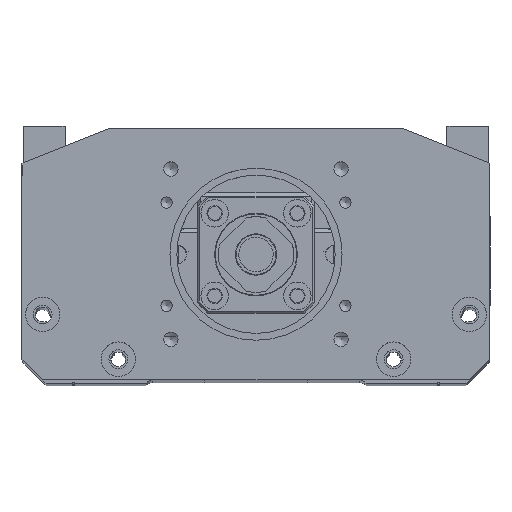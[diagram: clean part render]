
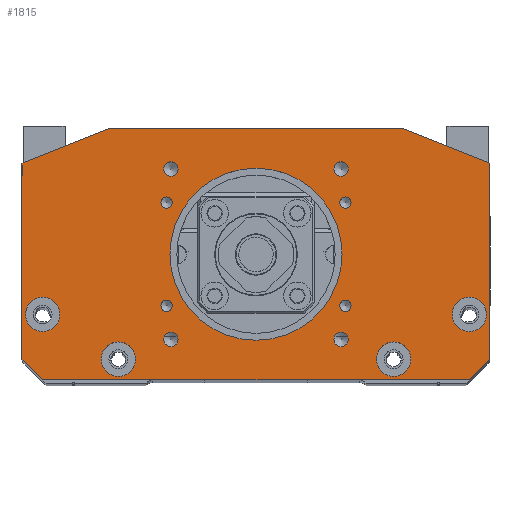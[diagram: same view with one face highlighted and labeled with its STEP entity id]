
A CAD part, top view. The second image highlights one B-rep face of the part: STEP entity #1815.
In plain terms, the highlighted planar face has unit normal (0, 0, 1).
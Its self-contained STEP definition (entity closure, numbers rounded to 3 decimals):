
#438=FACE_BOUND('',#3566,.T.);
#439=FACE_BOUND('',#3567,.T.);
#440=FACE_BOUND('',#3568,.T.);
#441=FACE_BOUND('',#3569,.T.);
#442=FACE_BOUND('',#3570,.T.);
#443=FACE_BOUND('',#3571,.T.);
#444=FACE_BOUND('',#3572,.T.);
#445=FACE_BOUND('',#3573,.T.);
#446=FACE_BOUND('',#3574,.T.);
#447=FACE_BOUND('',#3575,.T.);
#448=FACE_BOUND('',#3576,.T.);
#449=FACE_BOUND('',#3577,.T.);
#450=FACE_BOUND('',#3578,.T.);
#451=FACE_BOUND('',#3579,.T.);
#1104=PLANE('',#14274);
#1815=ADVANCED_FACE('9',(#438,#439,#440,#441,#442,#443,#444,#445,#446,#447,
#448,#449,#450,#451),#1104,.T.);
#3566=EDGE_LOOP('',(#6749));
#3567=EDGE_LOOP('',(#6750));
#3568=EDGE_LOOP('',(#6751));
#3569=EDGE_LOOP('',(#6752));
#3570=EDGE_LOOP('',(#6753));
#3571=EDGE_LOOP('',(#6754));
#3572=EDGE_LOOP('',(#6755));
#3573=EDGE_LOOP('',(#6756));
#3574=EDGE_LOOP('',(#6757));
#3575=EDGE_LOOP('',(#6758));
#3576=EDGE_LOOP('',(#6759));
#3577=EDGE_LOOP('',(#6760));
#3578=EDGE_LOOP('',(#6761));
#3579=EDGE_LOOP('',(#6762,#6763,#6764,#6765,#6766,#6767,#6768,#6769));
#4565=CIRCLE('',#14261,1.65);
#4566=CIRCLE('',#14262,1.65);
#4567=CIRCLE('',#14263,1.65);
#4568=CIRCLE('',#14264,1.65);
#4569=CIRCLE('',#14265,2.1);
#4570=CIRCLE('',#14266,2.1);
#4571=CIRCLE('',#14267,2.1);
#4572=CIRCLE('',#14268,2.1);
#4573=CIRCLE('',#14269,25.);
#4574=CIRCLE('',#14270,5.);
#4575=CIRCLE('',#14271,5.);
#4576=CIRCLE('',#14272,5.);
#4577=CIRCLE('',#14273,5.);
#6749=ORIENTED_EDGE('',*,*,#10934,.F.);
#6750=ORIENTED_EDGE('',*,*,#10935,.F.);
#6751=ORIENTED_EDGE('',*,*,#10936,.F.);
#6752=ORIENTED_EDGE('',*,*,#10937,.F.);
#6753=ORIENTED_EDGE('',*,*,#10938,.F.);
#6754=ORIENTED_EDGE('',*,*,#10939,.F.);
#6755=ORIENTED_EDGE('',*,*,#10940,.F.);
#6756=ORIENTED_EDGE('',*,*,#10941,.F.);
#6757=ORIENTED_EDGE('',*,*,#10942,.F.);
#6758=ORIENTED_EDGE('',*,*,#10943,.F.);
#6759=ORIENTED_EDGE('',*,*,#10944,.F.);
#6760=ORIENTED_EDGE('',*,*,#10945,.F.);
#6761=ORIENTED_EDGE('',*,*,#10946,.F.);
#6762=ORIENTED_EDGE('',*,*,#10025,.F.);
#6763=ORIENTED_EDGE('',*,*,#10904,.T.);
#6764=ORIENTED_EDGE('',*,*,#10947,.F.);
#6765=ORIENTED_EDGE('',*,*,#10907,.T.);
#6766=ORIENTED_EDGE('',*,*,#9930,.F.);
#6767=ORIENTED_EDGE('',*,*,#9983,.T.);
#6768=ORIENTED_EDGE('',*,*,#9999,.F.);
#6769=ORIENTED_EDGE('',*,*,#10014,.T.);
#8607=VERTEX_POINT('',#19435);
#8608=VERTEX_POINT('',#19437);
#8648=VERTEX_POINT('',#19538);
#8660=VERTEX_POINT('',#19569);
#8670=VERTEX_POINT('',#19597);
#8679=VERTEX_POINT('',#19619);
#9259=VERTEX_POINT('',#23567);
#9261=VERTEX_POINT('',#23573);
#9279=VERTEX_POINT('',#23630);
#9280=VERTEX_POINT('',#23632);
#9281=VERTEX_POINT('',#23634);
#9282=VERTEX_POINT('',#23636);
#9283=VERTEX_POINT('',#23638);
#9284=VERTEX_POINT('',#23640);
#9285=VERTEX_POINT('',#23642);
#9286=VERTEX_POINT('',#23644);
#9287=VERTEX_POINT('',#23646);
#9288=VERTEX_POINT('',#23648);
#9289=VERTEX_POINT('',#23650);
#9290=VERTEX_POINT('',#23652);
#9291=VERTEX_POINT('',#23654);
#9930=EDGE_CURVE('',#8607,#8608,#11640,.T.);
#9983=EDGE_CURVE('',#8607,#8648,#11683,.T.);
#9999=EDGE_CURVE('',#8660,#8648,#11697,.T.);
#10014=EDGE_CURVE('',#8660,#8670,#11710,.T.);
#10025=EDGE_CURVE('',#8679,#8670,#11719,.T.);
#10904=EDGE_CURVE('',#8679,#9259,#12178,.T.);
#10907=EDGE_CURVE('',#9261,#8608,#12181,.T.);
#10934=EDGE_CURVE('',#9279,#9279,#4565,.T.);
#10935=EDGE_CURVE('',#9280,#9280,#4566,.T.);
#10936=EDGE_CURVE('',#9281,#9281,#4567,.T.);
#10937=EDGE_CURVE('',#9282,#9282,#4568,.T.);
#10938=EDGE_CURVE('',#9283,#9283,#4569,.T.);
#10939=EDGE_CURVE('',#9284,#9284,#4570,.T.);
#10940=EDGE_CURVE('',#9285,#9285,#4571,.T.);
#10941=EDGE_CURVE('',#9286,#9286,#4572,.T.);
#10942=EDGE_CURVE('',#9287,#9287,#4573,.T.);
#10943=EDGE_CURVE('',#9288,#9288,#4574,.T.);
#10944=EDGE_CURVE('',#9289,#9289,#4575,.T.);
#10945=EDGE_CURVE('',#9290,#9290,#4576,.T.);
#10946=EDGE_CURVE('',#9291,#9291,#4577,.T.);
#10947=EDGE_CURVE('',#9261,#9259,#12195,.T.);
#11640=LINE('',#19436,#12583);
#11683=LINE('',#19539,#12626);
#11697=LINE('',#19570,#12640);
#11710=LINE('',#19598,#12653);
#11719=LINE('',#19620,#12662);
#12178=LINE('',#23566,#13121);
#12181=LINE('',#23572,#13124);
#12195=LINE('',#23655,#13138);
#12583=VECTOR('',#15187,1.);
#12626=VECTOR('',#15268,1.);
#12640=VECTOR('',#15292,1.);
#12653=VECTOR('',#15315,1.);
#12662=VECTOR('',#15332,1.);
#13121=VECTOR('',#17175,1.);
#13124=VECTOR('',#17180,1.);
#13138=VECTOR('',#17270,1.);
#14261=AXIS2_PLACEMENT_3D('',#23629,#17244,#17245);
#14262=AXIS2_PLACEMENT_3D('',#23631,#17246,#17247);
#14263=AXIS2_PLACEMENT_3D('',#23633,#17248,#17249);
#14264=AXIS2_PLACEMENT_3D('',#23635,#17250,#17251);
#14265=AXIS2_PLACEMENT_3D('',#23637,#17252,#17253);
#14266=AXIS2_PLACEMENT_3D('',#23639,#17254,#17255);
#14267=AXIS2_PLACEMENT_3D('',#23641,#17256,#17257);
#14268=AXIS2_PLACEMENT_3D('',#23643,#17258,#17259);
#14269=AXIS2_PLACEMENT_3D('',#23645,#17260,#17261);
#14270=AXIS2_PLACEMENT_3D('',#23647,#17262,#17263);
#14271=AXIS2_PLACEMENT_3D('',#23649,#17264,#17265);
#14272=AXIS2_PLACEMENT_3D('',#23651,#17266,#17267);
#14273=AXIS2_PLACEMENT_3D('',#23653,#17268,#17269);
#14274=AXIS2_PLACEMENT_3D('',#23656,#17271,#17272);
#15187=DIRECTION('',(0.,1.,0.));
#15268=DIRECTION('',(0.707,-0.707,0.));
#15292=DIRECTION('',(-1.,0.,0.));
#15315=DIRECTION('',(0.707,0.707,0.));
#15332=DIRECTION('',(0.,-1.,0.));
#17175=DIRECTION('',(-0.928,0.371,0.));
#17180=DIRECTION('',(-0.928,-0.371,0.));
#17244=DIRECTION('',(0.,0.,1.));
#17245=DIRECTION('',(1.,0.,0.));
#17246=DIRECTION('',(0.,0.,1.));
#17247=DIRECTION('',(1.,0.,0.));
#17248=DIRECTION('',(0.,0.,1.));
#17249=DIRECTION('',(1.,0.,0.));
#17250=DIRECTION('',(0.,0.,1.));
#17251=DIRECTION('',(1.,0.,0.));
#17252=DIRECTION('',(0.,0.,1.));
#17253=DIRECTION('',(1.,0.,0.));
#17254=DIRECTION('',(0.,0.,1.));
#17255=DIRECTION('',(1.,0.,0.));
#17256=DIRECTION('',(0.,0.,1.));
#17257=DIRECTION('',(1.,0.,0.));
#17258=DIRECTION('',(0.,0.,1.));
#17259=DIRECTION('',(1.,0.,0.));
#17260=DIRECTION('',(0.,0.,1.));
#17261=DIRECTION('',(1.,0.,0.));
#17262=DIRECTION('',(0.,0.,1.));
#17263=DIRECTION('',(1.,0.,0.));
#17264=DIRECTION('',(0.,0.,1.));
#17265=DIRECTION('',(1.,0.,0.));
#17266=DIRECTION('',(0.,0.,1.));
#17267=DIRECTION('',(1.,0.,0.));
#17268=DIRECTION('',(0.,0.,1.));
#17269=DIRECTION('',(1.,0.,0.));
#17270=DIRECTION('',(1.,0.,0.));
#17271=DIRECTION('',(0.,0.,1.));
#17272=DIRECTION('',(1.,0.,0.));
#19435=CARTESIAN_POINT('',(-68.,6.,180.));
#19436=CARTESIAN_POINT('',(-68.,0.,180.));
#19437=CARTESIAN_POINT('',(-68.,63.,180.));
#19538=CARTESIAN_POINT('',(-62.,0.,180.));
#19539=CARTESIAN_POINT('',(-49.25,-12.75,180.));
#19569=CARTESIAN_POINT('',(62.,0.,180.));
#19570=CARTESIAN_POINT('',(68.,0.,180.));
#19597=CARTESIAN_POINT('',(68.,6.,180.));
#19598=CARTESIAN_POINT('',(49.25,-12.75,180.));
#19619=CARTESIAN_POINT('',(68.,63.,180.));
#19620=CARTESIAN_POINT('',(68.,0.,180.));
#23566=CARTESIAN_POINT('',(18.517,82.793,180.));
#23567=CARTESIAN_POINT('',(43.,73.,180.));
#23572=CARTESIAN_POINT('',(-18.517,82.793,180.));
#23573=CARTESIAN_POINT('',(-43.,73.,180.));
#23629=CARTESIAN_POINT('',(25.981,51.5,180.));
#23630=CARTESIAN_POINT('',(27.631,51.5,180.));
#23631=CARTESIAN_POINT('',(25.981,21.5,180.));
#23632=CARTESIAN_POINT('',(27.631,21.5,180.));
#23633=CARTESIAN_POINT('',(-25.981,21.5,180.));
#23634=CARTESIAN_POINT('',(-24.331,21.5,180.));
#23635=CARTESIAN_POINT('',(-25.981,51.5,180.));
#23636=CARTESIAN_POINT('',(-24.331,51.5,180.));
#23637=CARTESIAN_POINT('',(-24.749,61.249,180.));
#23638=CARTESIAN_POINT('',(-22.649,61.249,180.));
#23639=CARTESIAN_POINT('',(24.749,61.249,180.));
#23640=CARTESIAN_POINT('',(26.849,61.249,180.));
#23641=CARTESIAN_POINT('',(24.749,11.751,180.));
#23642=CARTESIAN_POINT('',(26.849,11.751,180.));
#23643=CARTESIAN_POINT('',(-24.749,11.751,180.));
#23644=CARTESIAN_POINT('',(-22.649,11.751,180.));
#23645=CARTESIAN_POINT('',(0.,36.5,180.));
#23646=CARTESIAN_POINT('',(25.,36.5,180.));
#23647=CARTESIAN_POINT('',(-62.,19.,180.));
#23648=CARTESIAN_POINT('',(-57.,19.,180.));
#23649=CARTESIAN_POINT('',(62.,19.,180.));
#23650=CARTESIAN_POINT('',(67.,19.,180.));
#23651=CARTESIAN_POINT('',(-40.,6.,180.));
#23652=CARTESIAN_POINT('',(-35.,6.,180.));
#23653=CARTESIAN_POINT('',(40.,6.,180.));
#23654=CARTESIAN_POINT('',(45.,6.,180.));
#23655=CARTESIAN_POINT('',(68.,73.,180.));
#23656=CARTESIAN_POINT('',(0.,36.5,180.));
